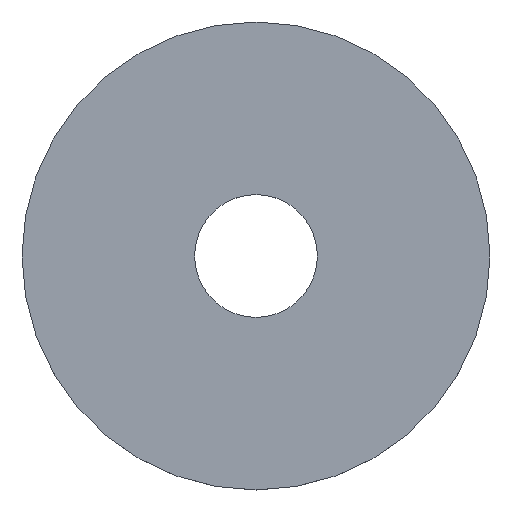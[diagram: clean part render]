
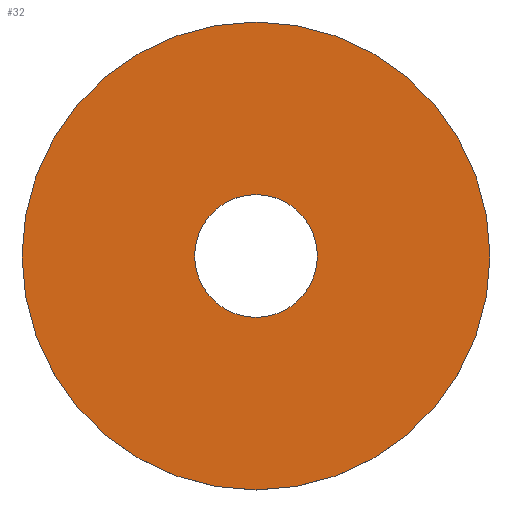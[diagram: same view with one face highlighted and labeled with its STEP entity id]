
A CAD part, top view. The second image highlights one B-rep face of the part: STEP entity #32.
In plain terms, the highlighted planar face has unit normal (0, 0, 1).
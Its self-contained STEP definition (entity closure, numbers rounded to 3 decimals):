
#32 = ADVANCED_FACE( '', ( #61, #62 ), #63, .F. );
#61 = FACE_BOUND( '', #84, .T. );
#62 = FACE_OUTER_BOUND( '', #85, .T. );
#63 = PLANE( '', #86 );
#84 = EDGE_LOOP( '', ( #105 ) );
#85 = EDGE_LOOP( '', ( #106 ) );
#86 = AXIS2_PLACEMENT_3D( '', #107, #108, #109 );
#105 = ORIENTED_EDGE( '', *, *, #122, .T. );
#106 = ORIENTED_EDGE( '', *, *, #117, .F. );
#107 = CARTESIAN_POINT( '', ( 0., 0., 2. ) );
#108 = DIRECTION( '', ( 0., 0., -1. ) );
#109 = DIRECTION( '', ( -1., 0., 0. ) );
#117 = EDGE_CURVE( '', #125, #125, #126, .T. );
#122 = EDGE_CURVE( '', #133, #133, #134, .T. );
#125 = VERTEX_POINT( '', #137 );
#126 = CIRCLE( '', #138, 20. );
#133 = VERTEX_POINT( '', #145 );
#134 = CIRCLE( '', #146, 5.25 );
#137 = CARTESIAN_POINT( '', ( 20., 0., 2. ) );
#138 = AXIS2_PLACEMENT_3D( '', #148, #149, #150 );
#145 = CARTESIAN_POINT( '', ( 5.25, 0., 2. ) );
#146 = AXIS2_PLACEMENT_3D( '', #157, #158, #159 );
#148 = CARTESIAN_POINT( '', ( 0., 0., 2. ) );
#149 = DIRECTION( '', ( 0., 0., -1. ) );
#150 = DIRECTION( '', ( 1., 0., 0. ) );
#157 = CARTESIAN_POINT( '', ( 0., 0., 2. ) );
#158 = DIRECTION( '', ( 0., 0., -1. ) );
#159 = DIRECTION( '', ( 1., 0., 0. ) );
